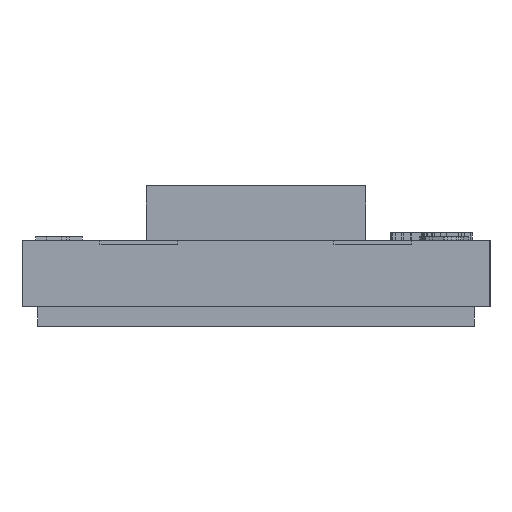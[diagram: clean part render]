
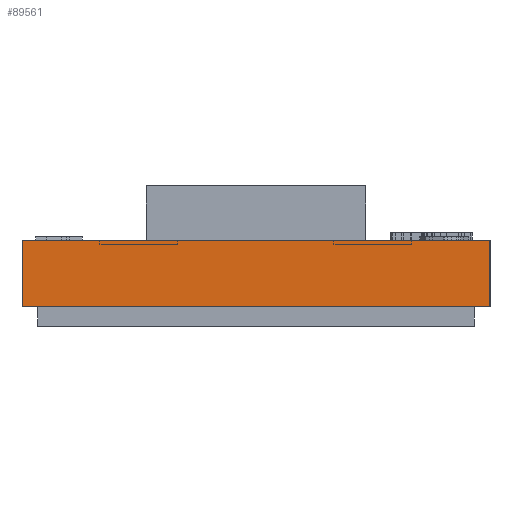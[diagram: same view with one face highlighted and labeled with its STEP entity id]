
A CAD part, left-side view. The second image highlights one B-rep face of the part: STEP entity #89561.
In plain terms, the highlighted planar face has unit normal (-1, 0, 0).
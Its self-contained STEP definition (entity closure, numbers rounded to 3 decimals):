
#1641 = LINE ( 'NONE', #32368, #70864 ) ;
#2235 = CARTESIAN_POINT ( 'NONE',  ( -285., -3., 0. ) ) ;
#2885 = VERTEX_POINT ( 'NONE', #83163 ) ;
#9672 = CARTESIAN_POINT ( 'NONE',  ( -285., 3., 0.85 ) ) ;
#15573 = EDGE_LOOP ( 'NONE', ( #58227, #25304, #64818, #59652 ) ) ;
#17326 = DIRECTION ( 'NONE',  ( 0., 0., -1. ) ) ;
#18629 = LINE ( 'NONE', #2235, #24835 ) ;
#20488 = CARTESIAN_POINT ( 'NONE',  ( -285., -3., 0. ) ) ;
#24835 = VECTOR ( 'NONE', #58895, 1000. ) ;
#25304 = ORIENTED_EDGE ( 'NONE', *, *, #62307, .F. ) ;
#27257 = DIRECTION ( 'NONE',  ( 1., 0., 0. ) ) ;
#28298 = DIRECTION ( 'NONE',  ( 0., 0., -1. ) ) ;
#28839 = CARTESIAN_POINT ( 'NONE',  ( -285., -3., 0.85 ) ) ;
#30365 = VERTEX_POINT ( 'NONE', #9672 ) ;
#31648 = AXIS2_PLACEMENT_3D ( 'NONE', #28839, #27257, #28298 ) ;
#32182 = CARTESIAN_POINT ( 'NONE',  ( -285., 3., 0. ) ) ;
#32368 = CARTESIAN_POINT ( 'NONE',  ( -285., 3., 0.85 ) ) ;
#32632 = VERTEX_POINT ( 'NONE', #32182 ) ;
#33009 = DIRECTION ( 'NONE',  ( 0., -1., 0. ) ) ;
#39123 = LINE ( 'NONE', #81950, #77129 ) ;
#40439 = VERTEX_POINT ( 'NONE', #20488 ) ;
#41898 = EDGE_CURVE ( 'NONE', #30365, #2885, #74293, .T. ) ;
#43681 = FACE_OUTER_BOUND ( 'NONE', #15573, .T. ) ;
#57390 = CARTESIAN_POINT ( 'NONE',  ( -285., -3., 0.85 ) ) ;
#58227 = ORIENTED_EDGE ( 'NONE', *, *, #70429, .T. ) ;
#58895 = DIRECTION ( 'NONE',  ( 0., -1., 0. ) ) ;
#59652 = ORIENTED_EDGE ( 'NONE', *, *, #100856, .T. ) ;
#62307 = EDGE_CURVE ( 'NONE', #2885, #40439, #39123, .T. ) ;
#64818 = ORIENTED_EDGE ( 'NONE', *, *, #41898, .F. ) ;
#69338 = VECTOR ( 'NONE', #33009, 1000. ) ;
#70429 = EDGE_CURVE ( 'NONE', #32632, #40439, #18629, .T. ) ;
#70864 = VECTOR ( 'NONE', #96413, 1000. ) ;
#74293 = LINE ( 'NONE', #57390, #69338 ) ;
#77129 = VECTOR ( 'NONE', #17326, 1000. ) ;
#81950 = CARTESIAN_POINT ( 'NONE',  ( -285., -3., 0.85 ) ) ;
#83163 = CARTESIAN_POINT ( 'NONE',  ( -285., -3., 0.85 ) ) ;
#89561 = ADVANCED_FACE ( 'NONE', ( #43681 ), #101284, .F. ) ;
#96413 = DIRECTION ( 'NONE',  ( 0., 0., -1. ) ) ;
#100856 = EDGE_CURVE ( 'NONE', #30365, #32632, #1641, .T. ) ;
#101284 = PLANE ( 'NONE',  #31648 ) ;
